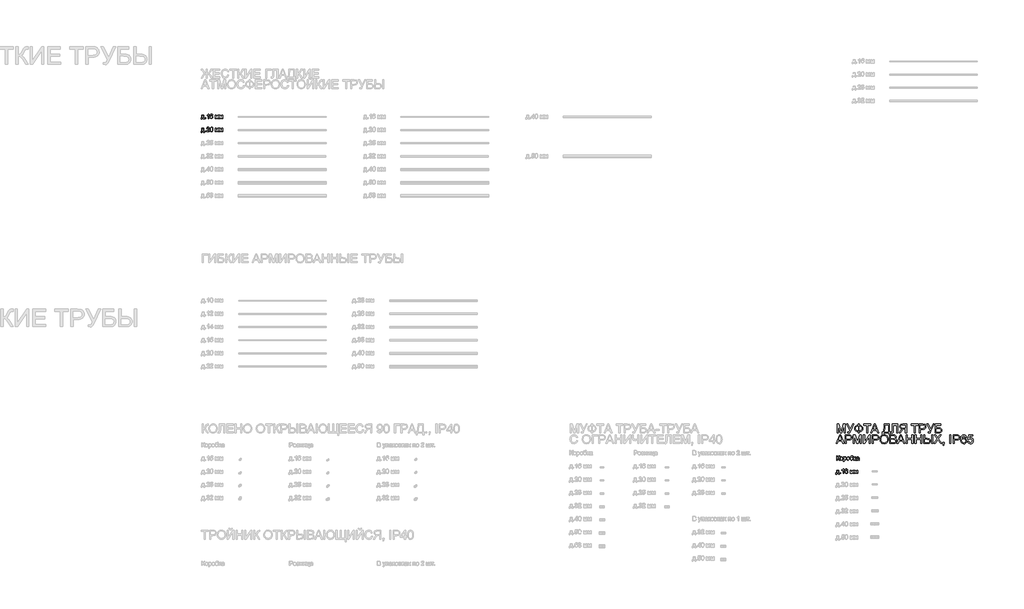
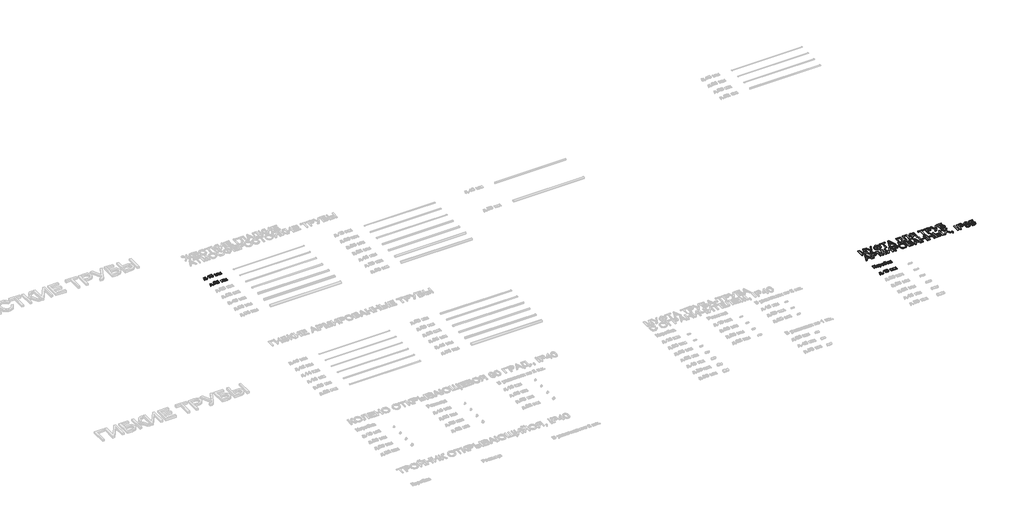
# One storey, part 87 of 98: 5 proxies.
"""IFC4 building model written with IfcOpenShell, lengths in millimetres."""

from ifc_helpers import new_model, si_unit, origin, origin_with_axes, place, context, project, spatial, polyline, outline, extrude, element, save

model = new_model("IFC4")

# Units and contexts
model_context = context("Model", 3, world=origin())
ifc_project = project(units=[si_unit("LENGTHUNIT", "METRE", prefix="MILLI")], contexts=[model_context])

# Site, building, storey
site = spatial("IfcSite", under=ifc_project)
building = spatial("IfcBuilding", under=site)
storey = spatial("IfcBuildingStorey", under=building, Name="Этаж 01", Elevation=0.0)

# Proxies
placement = place(None, origin())
element("IfcBuildingElementProxy", 1, Name="100", ObjectType="100", at=placement, inside=storey, context=model_context, shape_type="SweptSolid", body=[
    extrude(outline(polyline([(-29.8143916, -7596.7269726), (17.2745038, -7596.7269726), (17.2745038, -7657.9425366), (26.6922829, -7657.9425366), (26.6922829, -7690.9047634), (14.1352441, -7690.9047634), (14.1352441, -7670.4995754), (-37.6625408, -7670.4995754), (-37.6625408, -7690.9047634), (-50.2195796, -7690.9047634), (-50.2195796, -7657.9425366), (-42.3714303, -7657.9425366), (-32.6716084, -7633.9934187), (-29.8143916, -7596.7269726)]), holes=[polyline([(-18.8269827, -7609.2840114), (-21.7700386, -7637.8929679), (-28.2447617, -7657.9425366), (4.717465, -7657.9425366), (4.717465, -7609.2840114), (-18.8269827, -7609.2840114)])]), origin_with_axes(), (0.0, 0.0, 1.0), 10.0),
    extrude(outline(polyline([(43.9582112, -7670.4995754), (43.9582112, -7657.9425366), (56.51525, -7657.9425366), (56.51525, -7670.4995754), (43.9582112, -7670.4995754)])), origin_with_axes(), (0.0, 0.0, 1.0), 10.0),
    extrude(outline(polyline([(124.0093333, -7670.4995754), (111.4522946, -7670.4995754), (111.4522946, -7592.2142868), (99.5574434, -7600.6878354), (86.338217, -7607.0276685), (86.338217, -7595.1573428), (104.7445795, -7583.4096444), (115.9159294, -7570.0432652), (124.0093333, -7570.0432652), (124.0093333, -7670.4995754)])), origin_with_axes(), (0.0, 0.0, 1.0), 10.0),
    extrude(outline(polyline([(218.1871241, -7596.7269726), (205.6300853, -7598.2966025), (200.8721449, -7587.8242283), (188.2905806, -7582.600304), (176.9598152, -7585.6414618), (168.3881647, -7597.0580664), (164.8197093, -7619.4375545), (175.8929574, -7609.4189014), (189.6149558, -7606.1447517), (201.2155014, -7608.3827005), (210.9521115, -7615.0965469), (217.5555933, -7625.3543232), (219.7567539, -7638.2240617), (215.6119501, -7655.5513036), (204.2076083, -7667.8140368), (187.7510204, -7672.0692052), (173.5047901, -7669.2487766), (162.1586962, -7660.7874907), (154.736677, -7645.8514817), (152.2626706, -7623.6068837), (155.0095228, -7598.5970394), (163.2500795, -7581.496658), (174.5011372, -7572.9066134), (189.0753956, -7570.0432652), (200.0934613, -7571.8152302), (208.9164978, -7577.131125), (215.0969153, -7585.5740168), (218.1871241, -7596.7269726)]), holes=[polyline([(164.8197093, -7638.0278579), (167.7259771, -7648.9049023), (175.451499, -7656.8021024), (186.7700017, -7659.5121665), (195.0565437, -7658.1080835), (201.5711207, -7653.8958347), (205.7925665, -7647.2739588), (207.1997152, -7638.6409946), (205.8109606, -7630.3544527), (201.6446971, -7624.0360794), (195.0197555, -7620.0353627), (186.2549669, -7618.7017905), (171.0614405, -7624.0360794), (166.3801421, -7630.2011685), (164.8197093, -7638.0278579)])]), origin_with_axes(), (0.0, 0.0, 1.0), 10.0),
    extrude(outline(polyline([(273.1241687, -7596.7269726), (294.7311046, -7596.7269726), (311.3838962, -7655.7842956), (329.3365376, -7596.7269726), (350.0360312, -7596.7269726), (350.0360312, -7670.4995754), (337.4789924, -7670.4995754), (337.4789924, -7611.0988959), (319.4282492, -7670.4995754), (302.9471358, -7670.4995754), (285.6812075, -7608.2539418), (285.6812075, -7670.4995754), (273.1241687, -7670.4995754), (273.1241687, -7596.7269726)])), origin_with_axes(), (0.0, 0.0, 1.0), 10.0),
    extrude(outline(polyline([(368.8715893, -7596.7269726), (390.4785252, -7596.7269726), (407.1313168, -7655.7842956), (425.0839582, -7596.7269726), (445.7834518, -7596.7269726), (445.7834518, -7670.4995754), (433.226413, -7670.4995754), (433.226413, -7611.0988959), (415.1756698, -7670.4995754), (398.6945564, -7670.4995754), (381.4286281, -7608.2539418), (381.4286281, -7670.4995754), (368.8715893, -7670.4995754), (368.8715893, -7596.7269726)])), origin_with_axes(), (0.0, 0.0, 1.0), 10.0),
])
element("IfcBuildingElementProxy", 2, Name="100", ObjectType="100", at=placement, inside=storey, context=model_context, shape_type="SweptSolid", body=[
    extrude(outline(polyline([(-29.8143916, -7896.7269726), (17.2745038, -7896.7269726), (17.2745038, -7957.9425366), (26.6922829, -7957.9425366), (26.6922829, -7990.9047634), (14.1352441, -7990.9047634), (14.1352441, -7970.4995754), (-37.6625408, -7970.4995754), (-37.6625408, -7990.9047634), (-50.2195796, -7990.9047634), (-50.2195796, -7957.9425366), (-42.3714303, -7957.9425366), (-32.6716084, -7933.9934187), (-29.8143916, -7896.7269726)]), holes=[polyline([(-18.8269827, -7909.2840114), (-21.7700386, -7937.8929679), (-28.2447617, -7957.9425366), (4.717465, -7957.9425366), (4.717465, -7909.2840114), (-18.8269827, -7909.2840114)])]), origin_with_axes(), (0.0, 0.0, 1.0), 10.0),
    extrude(outline(polyline([(43.9582112, -7970.4995754), (43.9582112, -7957.9425366), (56.51525, -7957.9425366), (56.51525, -7970.4995754), (43.9582112, -7970.4995754)])), origin_with_axes(), (0.0, 0.0, 1.0), 10.0),
    extrude(outline(polyline([(141.2752616, -7957.9425366), (141.2752616, -7970.4995754), (75.3508081, -7970.4995754), (76.6997088, -7961.8420858), (84.3271288, -7948.5124948), (100.0479527, -7933.9566305), (121.728465, -7913.0364077), (127.148593, -7898.8116373), (122.0350333, -7887.2969308), (108.6809169, -7882.600304), (94.7627147, -7887.1865662), (89.4774767, -7899.8662323), (76.920438, -7898.2966025), (79.9646615, -7886.1503653), (86.5466835, -7877.2782778), (96.3231475, -7871.8520184), (108.950697, -7870.0432652), (121.670217, -7872.0543535), (131.4282869, -7878.0876182), (137.6362956, -7887.1007271), (139.7056318, -7898.0513478), (137.4738144, -7909.9584617), (130.0548608, -7922.2702458), (112.0654312, -7939.4748605), (97.6199315, -7951.5536526), (91.9545488, -7957.9425366), (141.2752616, -7957.9425366)])), origin_with_axes(), (0.0, 0.0, 1.0), 10.0),
    extrude(outline(polyline([(153.8323004, -7921.0807607), (157.5233831, -7892.1774986), (168.4862666, -7875.5124442), (186.7945272, -7870.0432652), (201.4607561, -7873.2806268), (211.5897737, -7882.6125667), (217.4758856, -7897.4749993), (219.7567539, -7921.0807607), (216.1024595, -7949.8613955), (205.1763642, -7966.563238), (196.9450046, -7970.6927134), (186.7945272, -7972.0692052), (173.7469791, -7969.6779723), (163.8386907, -7962.5042734), (156.333898, -7945.5142565), (153.8323004, -7921.0807607)]), holes=[polyline([(166.3893392, -7921.0562352), (167.8608672, -7940.8084327), (172.2754511, -7952.2403657), (178.8482761, -7957.6942163), (186.7945272, -7959.5121665), (194.7407783, -7957.6880849), (201.3136033, -7952.2158402), (205.7281872, -7940.7777759), (207.1997152, -7921.0562352), (205.7772381, -7901.7485618), (201.509807, -7890.227724), (194.9492447, -7884.507159), (186.6473744, -7882.600304), (178.7869624, -7884.2802984), (172.4716548, -7889.3202818), (167.9099181, -7901.5584895), (166.3893392, -7921.0562352)])]), origin_with_axes(), (0.0, 0.0, 1.0), 10.0),
    extrude(outline(polyline([(273.1241687, -7896.7269726), (294.7311046, -7896.7269726), (311.3838962, -7955.7842956), (329.3365376, -7896.7269726), (350.0360312, -7896.7269726), (350.0360312, -7970.4995754), (337.4789924, -7970.4995754), (337.4789924, -7911.0988959), (319.4282492, -7970.4995754), (302.9471358, -7970.4995754), (285.6812075, -7908.2539418), (285.6812075, -7970.4995754), (273.1241687, -7970.4995754), (273.1241687, -7896.7269726)])), origin_with_axes(), (0.0, 0.0, 1.0), 10.0),
    extrude(outline(polyline([(368.8715893, -7896.7269726), (390.4785252, -7896.7269726), (407.1313168, -7955.7842956), (425.0839582, -7896.7269726), (445.7834518, -7896.7269726), (445.7834518, -7970.4995754), (433.226413, -7970.4995754), (433.226413, -7911.0988959), (415.1756698, -7970.4995754), (398.6945564, -7970.4995754), (381.4286281, -7908.2539418), (381.4286281, -7970.4995754), (368.8715893, -7970.4995754), (368.8715893, -7896.7269726)])), origin_with_axes(), (0.0, 0.0, 1.0), 10.0),
])
element("IfcBuildingElementProxy", 3, Name="100", ObjectType="100", at=placement, inside=storey, context=model_context, shape_type="SweptSolid", body=[
    extrude(outline(polyline([(14428.905254, -15685.7395637), (14475.9941494, -15685.7395637), (14475.9941494, -15746.9551277), (14485.4119285, -15746.9551277), (14485.4119285, -15779.9173545), (14472.8548897, -15779.9173545), (14472.8548897, -15759.5121665), (14421.0571048, -15759.5121665), (14421.0571048, -15779.9173545), (14408.500066, -15779.9173545), (14408.500066, -15746.9551277), (14416.3482152, -15746.9551277), (14426.0480372, -15723.0060098), (14428.905254, -15685.7395637)]), holes=[polyline([(14439.8926629, -15698.2966025), (14436.949607, -15726.905559), (14430.4748839, -15746.9551277), (14463.4371106, -15746.9551277), (14463.4371106, -15698.2966025), (14439.8926629, -15698.2966025)])]), origin_with_axes(), (0.0, 0.0, 1.0), 10.0),
    extrude(outline(polyline([(14502.6778568, -15759.5121665), (14502.6778568, -15746.9551277), (14515.2348955, -15746.9551277), (14515.2348955, -15759.5121665), (14502.6778568, -15759.5121665)])), origin_with_axes(), (0.0, 0.0, 1.0), 10.0),
    extrude(outline(polyline([(14582.7289789, -15759.5121665), (14570.1719402, -15759.5121665), (14570.1719402, -15681.2268779), (14558.277089, -15689.7004265), (14545.0578626, -15696.0402596), (14545.0578626, -15684.1699338), (14563.4642251, -15672.4222355), (14574.635575, -15659.0558563), (14582.7289789, -15659.0558563), (14582.7289789, -15759.5121665)])), origin_with_axes(), (0.0, 0.0, 1.0), 10.0),
    extrude(outline(polyline([(14676.9067697, -15685.7395637), (14664.3497309, -15687.3091935), (14659.5917905, -15676.8368194), (14647.0102262, -15671.6128951), (14635.6794608, -15674.6540529), (14627.1078103, -15686.0706575), (14623.5393549, -15708.4501455), (14634.612603, -15698.4314925), (14648.3346014, -15695.1573428), (14659.935147, -15697.3952916), (14669.6717571, -15704.109138), (14676.2752389, -15714.3669143), (14678.4763995, -15727.2366527), (14674.3315957, -15744.5638947), (14662.9272539, -15756.8266279), (14646.470666, -15761.0817963), (14632.2244357, -15758.2613677), (14620.8783418, -15749.8000818), (14613.4563226, -15734.8640728), (14610.9823162, -15712.6194748), (14613.7291684, -15687.6096305), (14621.9697251, -15670.5092491), (14633.2207828, -15661.9192045), (14647.7950411, -15659.0558563), (14658.8131069, -15660.8278213), (14667.6361434, -15666.1437161), (14673.8165609, -15674.5866079), (14676.9067697, -15685.7395637)]), holes=[polyline([(14623.5393549, -15727.040449), (14626.4456227, -15737.9174933), (14634.1711446, -15745.8146935), (14645.4896473, -15748.5247575), (14653.7761892, -15747.1206746), (14660.2907662, -15742.9084257), (14664.5122121, -15736.2865498), (14665.9193608, -15727.6535857), (14664.5306062, -15719.3670437), (14660.3643426, -15713.0486705), (14653.739401, -15709.0479538), (14644.9746125, -15707.7143815), (14629.7810861, -15713.0486705), (14625.0997877, -15719.2137596), (14623.5393549, -15727.040449)])]), origin_with_axes(), (0.0, 0.0, 1.0), 10.0),
    extrude(outline(polyline([(14731.8438143, -15685.7395637), (14753.4507502, -15685.7395637), (14770.1035418, -15744.7968867), (14788.0561832, -15685.7395637), (14808.7556768, -15685.7395637), (14808.7556768, -15759.5121665), (14796.198638, -15759.5121665), (14796.198638, -15700.111487), (14778.1478948, -15759.5121665), (14761.6667814, -15759.5121665), (14744.4008531, -15697.2665329), (14744.4008531, -15759.5121665), (14731.8438143, -15759.5121665), (14731.8438143, -15685.7395637)])), origin_with_axes(), (0.0, 0.0, 1.0), 10.0),
    extrude(outline(polyline([(14827.5912349, -15685.7395637), (14849.1981708, -15685.7395637), (14865.8509624, -15744.7968867), (14883.8036038, -15685.7395637), (14904.5030974, -15685.7395637), (14904.5030974, -15759.5121665), (14891.9460586, -15759.5121665), (14891.9460586, -15700.111487), (14873.8953154, -15759.5121665), (14857.414202, -15759.5121665), (14840.1482737, -15697.2665329), (14840.1482737, -15759.5121665), (14827.5912349, -15759.5121665), (14827.5912349, -15685.7395637)])), origin_with_axes(), (0.0, 0.0, 1.0), 10.0),
])
element("IfcBuildingElementProxy", 4, Name="100", ObjectType="100", at=placement, inside=storey, context=model_context, shape_type="SweptSolid", body=[
    extrude(outline(polyline([(14422.316053, -15359.0558563), (14434.8730918, -15359.0558563), (14434.8730918, -15403.005492), (14448.9139213, -15399.6822913), (14458.7118451, -15382.8700841), (14465.6402893, -15368.8292546), (14473.4884386, -15361.8762849), (14484.7088394, -15359.0558563), (14492.9493961, -15359.2030091), (14492.9493961, -15371.7600479), (14490.1780184, -15371.6864715), (14487.4066407, -15371.6128951), (14477.5964542, -15374.6295274), (14470.1407124, -15387.5544482), (14461.2502309, -15403.2997976), (14452.5804785, -15408.4991965), (14462.2741691, -15414.1768419), (14471.8329696, -15426.0103794), (14492.9493961, -15459.5121665), (14478.3812691, -15459.5121665), (14460.5267296, -15431.2097783), (14447.9574281, -15416.4331848), (14434.8730918, -15412.4232711), (14434.8730918, -15459.5121665), (14422.316053, -15459.5121665), (14422.316053, -15359.0558563)])), origin_with_axes(), (0.0, 0.0, 1.0), 10.0),
    extrude(outline(polyline([(14499.2279155, -15422.6258651), (14501.9441109, -15404.8387706), (14510.0926971, -15392.3369141), (14520.160401, -15386.2116789), (14532.2146677, -15384.1699338), (14545.4063029, -15386.656203), (14555.9430564, -15394.1150104), (14562.8500409, -15405.957745), (14565.152369, -15421.5957955), (14561.0811416, -15443.9384953), (14549.2230786, -15456.5813732), (14532.2146677, -15461.0817963), (14518.863617, -15458.6047242), (14508.3391263, -15451.1735079), (14501.5057182, -15439.082453), (14499.2279155, -15422.6258651)]), holes=[polyline([(14511.7849543, -15422.6013396), (14513.2380882, -15433.9658276), (14517.5974898, -15442.0622972), (14524.158052, -15446.9091424), (14532.2146677, -15448.5247575), (14540.2344952, -15446.8999454), (14546.7827947, -15442.025509), (14551.1421964, -15433.8217405), (14552.5953303, -15422.2089321), (14551.1329993, -15411.175538), (14546.7460065, -15403.189433), (14540.18851, -15398.3425877), (14532.2146677, -15396.7269726), (14524.158052, -15398.3364563), (14517.5974898, -15403.1649075), (14513.2380882, -15411.242983), (14511.7849543, -15422.6013396)])]), origin_with_axes(), (0.0, 0.0, 1.0), 10.0),
    extrude(outline(polyline([(14579.2790377, -15487.7655037), (14579.2790377, -15385.7395637), (14591.8360764, -15385.7395637), (14591.8360764, -15398.0513478), (14600.5180915, -15387.6402873), (14612.2412644, -15384.1699338), (14628.1582921, -15389.0259762), (14638.5570898, -15402.7111864), (14642.0642315, -15422.0617793), (14638.1033687, -15442.4056537), (14626.600925, -15456.2625422), (14610.7206855, -15461.0817963), (14599.7945903, -15457.8566975), (14591.8360764, -15449.7019799), (14591.8360764, -15487.7655037), (14579.2790377, -15487.7655037)]), holes=[polyline([(14591.8360764, -15423.2144763), (14593.1941741, -15434.4716653), (14597.2684672, -15442.34434), (14603.2802722, -15446.9796532), (14610.4509054, -15448.5247575), (14617.7380346, -15446.9244709), (14623.9031237, -15442.1236108), (14628.1061755, -15433.9627619), (14629.5071927, -15422.2825085), (14628.139898, -15411.0866332), (14624.0380137, -15403.1035939), (14618.0354058, -15398.3211279), (14610.9659402, -15396.7269726), (14603.8688833, -15398.4222955), (14597.6363492, -15403.5082641), (14593.2861446, -15411.8254628), (14591.8360764, -15423.2144763)])]), origin_with_axes(), (0.0, 0.0, 1.0), 10.0),
    extrude(outline(polyline([(14653.0516404, -15422.6258651), (14655.7678358, -15404.8387706), (14663.916422, -15392.3369141), (14673.9841259, -15386.2116789), (14686.0383927, -15384.1699338), (14699.2300279, -15386.656203), (14709.7667813, -15394.1150104), (14716.6737658, -15405.957745), (14718.976094, -15421.5957955), (14714.9048665, -15443.9384953), (14703.0468036, -15456.5813732), (14686.0383927, -15461.0817963), (14672.6873419, -15458.6047242), (14662.1628512, -15451.1735079), (14655.3294431, -15439.082453), (14653.0516404, -15422.6258651)]), holes=[polyline([(14665.6086792, -15422.6013396), (14667.0618131, -15433.9658276), (14671.4212147, -15442.0622972), (14677.981777, -15446.9091424), (14686.0383927, -15448.5247575), (14694.0582202, -15446.8999454), (14700.6065197, -15442.025509), (14704.9659213, -15433.8217405), (14706.4190552, -15422.2089321), (14704.9567243, -15411.175538), (14700.5697315, -15403.189433), (14694.0122349, -15398.3425877), (14686.0383927, -15396.7269726), (14677.981777, -15398.3364563), (14671.4212147, -15403.1649075), (14667.0618131, -15411.242983), (14665.6086792, -15422.6013396)])]), origin_with_axes(), (0.0, 0.0, 1.0), 10.0),
    extrude(outline(polyline([(14784.9005475, -15357.4862265), (14795.8879564, -15357.4862265), (14792.6505949, -15367.2841503), (14786.2494481, -15370.8280802), (14770.8719807, -15371.6128951), (14750.1602244, -15374.5069001), (14742.2139733, -15383.7775264), (14739.5284348, -15400.1850634), (14750.4054791, -15388.1675849), (14764.4217831, -15384.1699338), (14777.4877253, -15386.7113853), (14788.0888581, -15394.3357396), (14795.1154042, -15406.2949702), (14797.4575863, -15421.8410502), (14792.8100104, -15443.447986), (14781.7858133, -15456.4832714), (14764.4217831, -15461.0817963), (14753.087952, -15459.6010713), (14744.5929436, -15455.1588962), (14733.7404247, -15440.002158), (14729.9635029, -15407.8370089), (14732.3455388, -15383.7438039), (14739.4916466, -15369.0499838), (14751.5796358, -15361.5543882), (14768.7873161, -15359.0558563), (14782.7668319, -15358.7738134), (14784.9005475, -15357.4862265)]), holes=[polyline([(14784.9005475, -15421.4486427), (14783.5393841, -15411.5679454), (14779.455894, -15403.6554169), (14772.8953317, -15398.4590837), (14764.102952, -15396.7269726), (14754.936559, -15398.5571855), (14748.1368734, -15404.0478243), (14743.9246246, -15412.598015), (14742.5205416, -15423.6068837), (14744.0717774, -15434.2785273), (14748.7254846, -15442.1113481), (14755.6539289, -15446.9214052), (14764.0293756, -15448.5247575), (14772.447742, -15446.6700191), (14779.1125374, -15441.105804), (14783.453545, -15432.4820369), (14784.9005475, -15421.4486427)])]), origin_with_axes(), (0.0, 0.0, 1.0), 10.0),
    extrude(outline(polyline([(14813.1538847, -15385.7395637), (14825.7109235, -15385.7395637), (14825.7109235, -15417.1321606), (14834.1231584, -15414.8758177), (14841.0148145, -15401.7301677), (14846.7415109, -15390.3871396), (14851.7937569, -15386.6960569), (14860.9785441, -15385.7395637), (14863.3820398, -15385.7395637), (14863.3820398, -15398.3701789), (14859.9975254, -15398.2966025), (14853.8661589, -15399.6209776), (14849.5496768, -15407.8860598), (14844.485168, -15416.8255923), (14837.3850455, -15421.203388), (14845.3067711, -15426.0900872), (14853.0813439, -15436.3846517), (14866.5212995, -15459.5121665), (14852.2474781, -15459.5121665), (14839.0773026, -15436.875161), (14832.4554267, -15427.2979664), (14825.7109235, -15424.9803098), (14825.7109235, -15459.5121665), (14813.1538847, -15459.5121665), (14813.1538847, -15385.7395637)])), origin_with_axes(), (0.0, 0.0, 1.0), 10.0),
    extrude(outline(polyline([(14921.4583441, -15450.0943874), (14909.2814501, -15458.6047242), (14895.8292318, -15461.0817963), (14885.3353979, -15459.5918742), (14877.5945475, -15455.122108), (14872.8212787, -15448.3346852), (14871.230189, -15439.8917934), (14873.6336847, -15429.9589795), (14879.9489923, -15422.7484924), (14888.741372, -15418.6282141), (14899.6061536, -15416.7397532), (14921.3847677, -15412.4232711), (14921.4583441, -15409.6273679), (14918.0002533, -15400.3567416), (14904.1188394, -15396.7269726), (14891.4146478, -15399.1427311), (14885.3568576, -15407.7143815), (14872.7998189, -15406.1447517), (14878.2322097, -15393.8820185), (14889.1705677, -15386.6960569), (14905.7375202, -15384.1699338), (14920.955572, -15386.4017513), (14929.551748, -15392.0058203), (14933.4022462, -15400.5284199), (14934.0153829, -15411.5158288), (14934.0153829, -15427.1385509), (14934.653045, -15448.9539532), (14937.1546426, -15459.5121665), (14924.5976038, -15459.5121665), (14921.4583441, -15450.0943874)]), holes=[polyline([(14921.4583441, -15424.9803098), (14901.2003089, -15428.8308081), (14890.396841, -15430.8664218), (14885.5040104, -15434.1773597), (14883.7872278, -15439.0088766), (14887.5273614, -15445.8024308), (14898.5025076, -15448.5247575), (14911.2066992, -15445.5203879), (14919.3982049, -15438.2485871), (14921.3847677, -15428.5365025), (14921.4583441, -15424.9803098)])]), origin_with_axes(), (0.0, 0.0, 1.0), 10.0),
])
element("IfcBuildingElementProxy", 5, Name="200", ObjectType="200", at=placement, inside=storey, context=model_context, shape_type="SweptSolid", body=[
    extrude(outline(polyline([(14433.303462, -14837.5373486), (14433.303462, -14636.6247283), (14476.5173337, -14636.6247283), (14517.6220153, -14778.234771), (14525.9116229, -14807.8124834), (14534.8879436, -14775.7822244), (14575.3059121, -14636.6247283), (14618.5197838, -14636.6247283), (14618.5197838, -14837.5373486), (14593.4057063, -14837.5373486), (14593.4057063, -14661.7388059), (14542.9322965, -14837.5373486), (14508.8909492, -14837.5373486), (14458.4175395, -14661.7388059), (14458.4175395, -14837.5373486), (14433.303462, -14837.5373486)])), origin_with_axes(), (0.0, 0.0, 1.0), 20.0),
    extrude(outline(polyline([(14648.3427509, -14636.6247283), (14676.1546297, -14636.6247283), (14736.2420223, -14755.622291), (14790.2961501, -14636.6247283), (14817.8627743, -14636.6247283), (14741.5885739, -14793.1462545), (14720.8400294, -14831.6021858), (14710.9930547, -14838.4080027), (14697.6389382, -14840.6766083), (14675.0264583, -14837.5373486), (14675.0264583, -14815.5625308), (14694.7939841, -14815.5625308), (14709.460213, -14809.9707244), (14723.0473214, -14784.5132904), (14648.3427509, -14636.6247283)])), origin_with_axes(), (0.0, 0.0, 1.0), 20.0),
    extrude(outline(polyline([(14913.6101949, -14661.7388059), (14913.6101949, -14636.6247283), (14938.7242724, -14636.6247283), (14938.7242724, -14661.7388059), (14972.5632846, -14668.53236), (14998.443783, -14684.7927442), (15014.869714, -14708.3494546), (15020.3450244, -14737.0319875), (15015.0413923, -14765.2485366), (14999.130496, -14788.8788234), (14987.3996589, -14798.3517848), (14973.4216759, -14805.4335132), (14938.7242724, -14812.4232711), (14938.7242724, -14837.5373486), (14913.6101949, -14837.5373486), (14913.6101949, -14812.4232711), (14881.5186222, -14806.3102986), (14855.2886359, -14790.7182334), (14845.095239, -14779.7384886), (14837.8142411, -14767.1308661), (14831.9894429, -14737.0319875), (14837.795847, -14706.8411385), (14845.0538522, -14694.2657056), (14855.2150595, -14683.3702672), (14881.4266517, -14667.9069606), (14913.6101949, -14661.7388059)]), holes=[polyline([(14913.6101949, -14686.8528834), (14890.7585916, -14690.8750599), (14872.7262425, -14700.8814501), (14861.0092009, -14716.4305958), (14857.1035204, -14737.0810385), (14860.96015, -14757.578197), (14872.5300387, -14773.1579995), (14890.5133369, -14783.2563602), (14913.6101949, -14787.3091935), (14913.6101949, -14686.8528834)]), polyline([(14938.7242724, -14686.8528834), (14938.7242724, -14787.3091935), (14962.2196692, -14783.1582584), (14980.1232596, -14773.0598976), (14991.4540251, -14757.529146), (14995.2309469, -14737.0810385), (14991.5214701, -14716.9088424), (14980.3930397, -14701.4210104), (14962.5568943, -14691.2061537), (14938.7242724, -14686.8528834)])]), origin_with_axes(), (0.0, 0.0, 1.0), 20.0),
    extrude(outline(polyline([(15105.1050361, -14837.5373486), (15105.1050361, -14661.7388059), (15039.1805826, -14661.7388059), (15039.1805826, -14636.6247283), (15196.1435672, -14636.6247283), (15196.1435672, -14661.7388059), (15130.2191136, -14661.7388059), (15130.2191136, -14837.5373486), (15105.1050361, -14837.5373486)])), origin_with_axes(), (0.0, 0.0, 1.0), 20.0),
    extrude(outline(polyline([(15200.9996095, -14837.5373486), (15281.1978845, -14636.6247283), (15302.5840911, -14636.6247283), (15382.7823661, -14837.5373486), (15356.2458115, -14837.5373486), (15333.240924, -14774.7521548), (15250.4920006, -14774.7521548), (15227.5361641, -14837.5373486), (15200.9996095, -14837.5373486)]), holes=[polyline([(15259.7135759, -14749.6380772), (15324.0683996, -14749.6380772), (15305.9686055, -14700.243788), (15291.8909878, -14661.7388059), (15279.3829999, -14695.9273059), (15259.7135759, -14749.6380772)])]), origin_with_axes(), (0.0, 0.0, 1.0), 20.0),
    extrude(outline(polyline([(15506.9302767, -14636.6247283), (15626.222145, -14636.6247283), (15626.222145, -14812.4232711), (15645.0577031, -14812.4232711), (15645.0577031, -14884.626244), (15619.9436256, -14884.626244), (15619.9436256, -14837.5373486), (15491.2339782, -14837.5373486), (15491.2339782, -14884.626244), (15466.1199007, -14884.626244), (15466.1199007, -14812.4232711), (15481.8161992, -14812.4232711), (15492.8036081, -14789.6421785), (15500.6517573, -14757.5965911), (15505.3606468, -14716.2865087), (15506.9302767, -14665.7119314), (15506.9302767, -14636.6247283)]), holes=[polyline([(15601.1080675, -14661.7388059), (15532.0443542, -14661.7388059), (15532.0443542, -14671.843298), (15526.9430572, -14740.6617566), (15519.3892136, -14780.4298002), (15506.9302767, -14812.4232711), (15601.1080675, -14812.4232711), (15601.1080675, -14661.7388059)])]), origin_with_axes(), (0.0, 0.0, 1.0), 20.0),
    extrude(outline(polyline([(15692.1465985, -14636.6247283), (15814.5777265, -14636.6247283), (15814.5777265, -14837.5373486), (15789.463649, -14837.5373486), (15789.463649, -14661.7388059), (15717.2606761, -14661.7388059), (15717.2606761, -14764.2552552), (15714.3421456, -14809.9952499), (15709.8233284, -14822.9201707), (15702.1039379, -14832.6077299), (15691.5334619, -14838.6593887), (15678.4613883, -14840.6766083), (15657.6147419, -14837.5373486), (15660.7540016, -14812.4232711), (15672.7714801, -14815.5625308), (15681.2634228, -14813.876405), (15687.3150817, -14808.8180275), (15690.9387193, -14797.5056562), (15692.1465985, -14777.0575486), (15692.1465985, -14636.6247283)])), origin_with_axes(), (0.0, 0.0, 1.0), 20.0),
    extrude(outline(polyline([(16015.4903468, -14837.5373486), (15990.3762693, -14837.5373486), (15990.3762693, -14749.6380772), (15960.0627929, -14749.6380772), (15945.4946659, -14750.520994), (15933.5507638, -14755.30346), (15920.2824865, -14768.3264826), (15901.3978774, -14795.8931068), (15875.2537303, -14837.5373486), (15846.0684253, -14837.5373486), (15879.5702123, -14783.0908133), (15899.9263494, -14757.2409718), (15914.2001708, -14746.4988175), (15889.4601066, -14739.8401534), (15872.138996, -14727.8104122), (15861.9302707, -14711.4028752), (15858.5273622, -14691.6108239), (15860.58137, -14675.6999276), (15866.7433934, -14661.2237711), (15876.3451135, -14649.5496491), (15888.7182113, -14642.0448564), (15905.6469144, -14637.9797603), (15928.9154506, -14636.6247283), (16015.4903468, -14636.6247283), (16015.4903468, -14837.5373486)]), holes=[polyline([(15990.3762693, -14724.5239997), (15990.3762693, -14661.7388059), (15927.8363301, -14661.7388059), (15907.964571, -14663.9093096), (15894.2609667, -14670.4208209), (15886.2963215, -14680.2923211), (15883.6414398, -14692.5427916), (15889.2087206, -14709.5879907), (15896.0635885, -14716.3447567), (15905.4936303, -14720.9678071), (15934.1639004, -14724.5239997), (15990.3762693, -14724.5239997)])]), origin_with_axes(), (0.0, 0.0, 1.0), 20.0),
    extrude(outline(polyline([(16188.1496299, -14837.5373486), (16188.1496299, -14661.7388059), (16122.2251764, -14661.7388059), (16122.2251764, -14636.6247283), (16279.188161, -14636.6247283), (16279.188161, -14661.7388059), (16213.2637074, -14661.7388059), (16213.2637074, -14837.5373486), (16188.1496299, -14837.5373486)])), origin_with_axes(), (0.0, 0.0, 1.0), 20.0),
    extrude(outline(polyline([(16307.4414982, -14837.5373486), (16307.4414982, -14636.6247283), (16381.900814, -14636.6247283), (16411.9199848, -14638.5377147), (16436.3228238, -14647.9309683), (16445.1949113, -14656.2573641), (16452.1417496, -14667.3551376), (16456.62991, -14680.4456053), (16458.1259634, -14694.7500836), (16454.0853928, -14718.4294213), (16441.9636811, -14738.160159), (16432.256195, -14745.9286004), (16419.2960188, -14751.4774872), (16383.6175967, -14755.9165966), (16332.5555757, -14755.9165966), (16332.5555757, -14837.5373486), (16307.4414982, -14837.5373486)]), holes=[polyline([(16332.5555757, -14730.8025191), (16385.0891246, -14730.8025191), (16407.3582481, -14728.4971252), (16422.0735279, -14721.5809437), (16430.2772964, -14710.4831702), (16433.0118859, -14695.6330003), (16431.3993365, -14684.3512858), (16426.5616882, -14674.8354049), (16419.0998151, -14667.6739687), (16409.614591, -14663.4555885), (16384.5005135, -14661.7388059), (16332.5555757, -14661.7388059), (16332.5555757, -14730.8025191)])]), origin_with_axes(), (0.0, 0.0, 1.0), 20.0),
    extrude(outline(polyline([(16478.5311514, -14636.6247283), (16506.3430303, -14636.6247283), (16566.4304228, -14755.622291), (16620.4845506, -14636.6247283), (16648.0511748, -14636.6247283), (16571.7769745, -14793.1462545), (16551.0284299, -14831.6021858), (16541.1814552, -14838.4080027), (16527.8273388, -14840.6766083), (16505.2148588, -14837.5373486), (16505.2148588, -14815.5625308), (16524.9823847, -14815.5625308), (16539.6486136, -14809.9707244), (16553.2357219, -14784.5132904), (16478.5311514, -14636.6247283)])), origin_with_axes(), (0.0, 0.0, 1.0), 20.0),
    extrude(outline(polyline([(16671.5956225, -14636.6247283), (16797.1660102, -14636.6247283), (16797.1660102, -14661.7388059), (16696.7097, -14661.7388059), (16696.7097, -14721.38474), (16743.7495445, -14721.38474), (16767.1345766, -14722.6600643), (16785.1975826, -14726.486037), (16799.0667338, -14733.8559396), (16809.8702017, -14745.7630535), (16816.8231715, -14761.09147), (16819.140828, -14778.7252803), (16817.4914904, -14793.5325306), (16812.5434776, -14807.3464995), (16804.321315, -14819.4436858), (16792.8495281, -14829.1005882), (16775.1544041, -14835.4281585), (16748.2622303, -14837.5373486), (16671.5956225, -14837.5373486), (16671.5956225, -14636.6247283)]), holes=[polyline([(16696.7097, -14812.4232711), (16750.5185732, -14812.4232711), (16769.5380723, -14810.3508692), (16783.1374434, -14804.1336635), (16791.3044237, -14793.7716539), (16794.0267505, -14779.2648406), (16792.4693834, -14768.4613727), (16787.797282, -14759.5954166), (16780.3476716, -14753.0225916), (16770.4577773, -14749.098517), (16732.6149828, -14746.4988175), (16696.7097, -14746.4988175), (16696.7097, -14812.4232711)])]), origin_with_axes(), (0.0, 0.0, 1.0), 20.0),
    extrude(outline(polyline([(14409.9061671, -15081.4869843), (14490.104442, -14880.574364), (14511.4906487, -14880.574364), (14591.6889236, -15081.4869843), (14565.152369, -15081.4869843), (14542.1474816, -15018.7017905), (14459.3985582, -15018.7017905), (14436.4427217, -15081.4869843), (14409.9061671, -15081.4869843)]), holes=[polyline([(14468.6201335, -14993.5877129), (14532.9749572, -14993.5877129), (14514.875163, -14944.1934237), (14500.7975454, -14905.6884415), (14488.2895575, -14939.8769416), (14468.6201335, -14993.5877129)])]), origin_with_axes(), (0.0, 0.0, 1.0), 20.0),
    extrude(outline(polyline([(14618.5197838, -15081.4869843), (14618.5197838, -14880.574364), (14692.9790996, -14880.574364), (14722.9982704, -14882.4873504), (14747.4011095, -14891.880604), (14756.2731969, -14900.2069998), (14763.2200352, -14911.3047733), (14767.7081956, -14924.395241), (14769.204249, -14938.6997192), (14765.1636785, -14962.379057), (14753.0419667, -14982.1097947), (14743.3344806, -14989.8782361), (14730.3743044, -14995.4271229), (14694.6958823, -14999.8662323), (14643.6338613, -14999.8662323), (14643.6338613, -15081.4869843), (14618.5197838, -15081.4869843)]), holes=[polyline([(14643.6338613, -14974.7521548), (14696.1674103, -14974.7521548), (14718.4365337, -14972.4467609), (14733.1518135, -14965.5305794), (14741.355582, -14954.4328059), (14744.0901715, -14939.582636), (14742.4776221, -14928.3009215), (14737.6399738, -14918.7850406), (14730.1781007, -14911.6236044), (14720.6928766, -14907.4052242), (14695.5787991, -14905.6884415), (14643.6338613, -14905.6884415), (14643.6338613, -14974.7521548)])]), origin_with_axes(), (0.0, 0.0, 1.0), 20.0),
    extrude(outline(polyline([(14803.7361056, -15081.4869843), (14803.7361056, -14880.574364), (14846.9499773, -14880.574364), (14888.0546589, -15022.1844067), (14896.3442666, -15051.7621191), (14905.3205872, -15019.73186), (14945.7385558, -14880.574364), (14988.9524275, -14880.574364), (14988.9524275, -15081.4869843), (14963.8383499, -15081.4869843), (14963.8383499, -14905.6884415), (14913.3649402, -15081.4869843), (14879.3235929, -15081.4869843), (14828.8501832, -14905.6884415), (14828.8501832, -15081.4869843), (14803.7361056, -15081.4869843)])), origin_with_axes(), (0.0, 0.0, 1.0), 20.0),
    extrude(outline(polyline([(15032.9020632, -14880.574364), (15058.0161407, -14880.574364), (15058.0161407, -15039.6955897), (15163.1813404, -14880.574364), (15189.8650478, -14880.574364), (15189.8650478, -15081.4869843), (15164.7509702, -15081.4869843), (15164.7509702, -14922.8072171), (15059.8310252, -15081.4869843), (15032.9020632, -15081.4869843), (15032.9020632, -14880.574364)])), origin_with_axes(), (0.0, 0.0, 1.0), 20.0),
    extrude(outline(polyline([(15233.8146835, -15081.4869843), (15233.8146835, -14880.574364), (15308.2739993, -14880.574364), (15338.2931701, -14882.4873504), (15362.6960091, -14891.880604), (15371.5680966, -14900.2069998), (15378.5149349, -14911.3047733), (15383.0030953, -14924.395241), (15384.4991487, -14938.6997192), (15380.4585781, -14962.379057), (15368.3368664, -14982.1097947), (15358.6293802, -14989.8782361), (15345.6692041, -14995.4271229), (15309.9907819, -14999.8662323), (15258.928761, -14999.8662323), (15258.928761, -15081.4869843), (15233.8146835, -15081.4869843)]), holes=[polyline([(15258.928761, -14974.7521548), (15311.4623099, -14974.7521548), (15333.7314334, -14972.4467609), (15348.4467132, -14965.5305794), (15356.6504817, -14954.4328059), (15359.3850712, -14939.582636), (15357.7725217, -14928.3009215), (15352.9348735, -14918.7850406), (15345.4730004, -14911.6236044), (15335.9877763, -14907.4052242), (15310.8736987, -14905.6884415), (15258.928761, -14905.6884415), (15258.928761, -14974.7521548)])]), origin_with_axes(), (0.0, 0.0, 1.0), 20.0),
    extrude(outline(polyline([(15409.6132262, -14983.6794245), (15411.2870893, -14960.113517), (15416.3086785, -14939.2515422), (15424.6779939, -14921.0935001), (15436.3950355, -14905.6393906), (15450.7577617, -14893.3000154), (15467.0641311, -14884.4861759), (15485.3141438, -14879.1978722), (15505.5077996, -14877.4351043), (15531.8604132, -14880.7460423), (15555.4907001, -14890.6788561), (15575.1110731, -14906.5345701), (15589.4339455, -14927.6142085), (15598.189537, -14952.8999643), (15601.1080675, -14981.3740307), (15598.0362528, -15010.2282418), (15588.8208088, -15035.8696169), (15573.9706389, -15056.9860434), (15553.9946466, -15072.265409), (15530.5666949, -15081.5360352), (15505.3606468, -15084.626244), (15478.6033631, -15081.2110728), (15454.8381862, -15070.9655592), (15435.266864, -15054.8155397), (15421.0911445, -15033.6868504), (15412.4827058, -15009.3759819), (15409.6132262, -14983.6794245)]), holes=[polyline([(15434.7273038, -14983.9246792), (15439.748893, -15015.3540643), (15454.8136607, -15039.3031822), (15477.4567975, -15054.4599204), (15505.213494, -15059.5121665), (15533.3748608, -15054.4108695), (15556.0547858, -15039.1069785), (15564.7781876, -15027.834461), (15571.0091889, -15014.4220966), (15575.9939899, -14981.177827), (15573.8602743, -14958.9454917), (15567.4591276, -14939.7297888), (15556.9560967, -14924.0150963), (15542.5167284, -14912.285792), (15525.0975159, -14904.9833344), (15505.6549524, -14902.5491818), (15478.6401513, -14907.2396773), (15455.672052, -14921.3111636), (15446.5087247, -14932.2602515), (15439.9634908, -14946.3455334), (15434.7273038, -14983.9246792)])]), origin_with_axes(), (0.0, 0.0, 1.0), 20.0),
    extrude(outline(polyline([(15635.6399241, -15081.4869843), (15635.6399241, -14880.574364), (15712.3065319, -14880.574364), (15733.3923016, -14882.0520234), (15749.8550208, -14886.4850014), (15762.4733733, -14893.9836627), (15772.0260424, -14904.658372), (15778.040913, -14917.2154107), (15780.0458699, -14930.3610607), (15778.3597441, -14942.458247), (15773.3013667, -14953.831932), (15764.8339494, -14963.7831399), (15752.9207041, -14971.6128951), (15767.151606, -14979.0441114), (15777.6668997, -14990.3503514), (15784.1600169, -15004.7835883), (15786.3243893, -15021.5957955), (15780.4137519, -15048.5983339), (15765.7720485, -15067.8262995), (15743.919858, -15078.0288935), (15711.7179207, -15081.4869843), (15635.6399241, -15081.4869843)]), holes=[polyline([(15660.7540016, -14962.195116), (15706.6166237, -14962.195116), (15733.3984329, -14960.036875), (15749.5116643, -14950.7417232), (15754.9317924, -14934.3832372), (15749.8795463, -14918.0002256), (15735.4095212, -14908.3126664), (15703.1340075, -14905.6884415), (15660.7540016, -14905.6884415), (15660.7540016, -14962.195116)]), polyline([(15660.7540016, -15056.3729068), (15712.2574809, -15056.3729068), (15730.8968354, -15055.3918881), (15746.6667102, -15049.9227091), (15757.1145589, -15038.7636219), (15761.2103118, -15021.8410502), (15756.4033204, -15002.3187789), (15750.1064069, -14995.261576), (15740.8296492, -14990.6691824), (15709.8049343, -14987.3091935), (15660.7540016, -14987.3091935), (15660.7540016, -15056.3729068)])]), origin_with_axes(), (0.0, 0.0, 1.0), 20.0),
    extrude(outline(polyline([(15797.458951, -15081.4869843), (15877.657226, -14880.574364), (15899.0434326, -14880.574364), (15979.2417076, -15081.4869843), (15952.705153, -15081.4869843), (15929.7002656, -15018.7017905), (15846.9513421, -15018.7017905), (15823.9955056, -15081.4869843), (15797.458951, -15081.4869843)]), holes=[polyline([(15856.1729174, -14993.5877129), (15920.5277411, -14993.5877129), (15902.427947, -14944.1934237), (15888.3503293, -14905.6884415), (15875.8423415, -14939.8769416), (15856.1729174, -14993.5877129)])]), origin_with_axes(), (0.0, 0.0, 1.0), 20.0),
    extrude(outline(polyline([(16006.0725677, -15081.4869843), (16006.0725677, -14880.574364), (16031.1866453, -14880.574364), (16031.1866453, -14962.195116), (16137.9214748, -14962.195116), (16137.9214748, -14880.574364), (16163.0355524, -14880.574364), (16163.0355524, -15081.4869843), (16137.9214748, -15081.4869843), (16137.9214748, -14987.3091935), (16031.1866453, -14987.3091935), (16031.1866453, -15081.4869843), (16006.0725677, -15081.4869843)])), origin_with_axes(), (0.0, 0.0, 1.0), 20.0),
    extrude(outline(polyline([(16206.985188, -15081.4869843), (16206.985188, -14880.574364), (16232.0992656, -14880.574364), (16232.0992656, -14962.195116), (16338.8340951, -14962.195116), (16338.8340951, -14880.574364), (16363.9481727, -14880.574364), (16363.9481727, -15081.4869843), (16338.8340951, -15081.4869843), (16338.8340951, -14987.3091935), (16232.0992656, -14987.3091935), (16232.0992656, -15081.4869843), (16206.985188, -15081.4869843)])), origin_with_axes(), (0.0, 0.0, 1.0), 20.0),
    extrude(outline(polyline([(16583.6963511, -14880.574364), (16608.8104286, -14880.574364), (16608.8104286, -15081.4869843), (16583.6963511, -15081.4869843), (16583.6963511, -14880.574364)])), origin_with_axes(), (0.0, 0.0, 1.0), 20.0),
    extrude(outline(polyline([(16407.8978083, -14880.574364), (16433.0118859, -14880.574364), (16433.0118859, -14965.3343757), (16481.2780037, -14965.3343757), (16520.555538, -14969.7244342), (16534.1150552, -14975.2120073), (16543.6217391, -14982.8946096), (16554.84214, -15001.6320659), (16558.5822736, -15022.7239669), (16554.6275421, -15044.7539671), (16542.7633478, -15063.853174), (16533.1570292, -15071.567966), (16520.1569992, -15077.0785317), (16483.9758049, -15081.4869843), (16407.8978083, -15081.4869843), (16407.8978083, -14880.574364)]), holes=[polyline([(16433.0118859, -15056.3729068), (16483.7305503, -15056.3729068), (16506.287848, -15054.3802126), (16521.6714467, -15048.4021302), (16530.5190087, -15038.0339893), (16533.468196, -15022.8711197), (16531.6839684, -15011.920499), (16526.3312853, -15002.9073901), (16518.1520423, -14996.3223024), (16507.8881346, -14992.6557452), (16470.1434419, -14990.4484532), (16433.0118859, -14990.4484532), (16433.0118859, -15056.3729068)])]), origin_with_axes(), (0.0, 0.0, 1.0), 20.0),
    extrude(outline(polyline([(16633.9245062, -15081.4869843), (16711.3759289, -14972.0053025), (16646.481545, -14880.574364), (16676.5988176, -14880.574364), (16713.1417625, -14932.0287924), (16725.4535466, -14952.0906239), (16739.8745208, -14931.6854359), (16776.0250582, -14880.574364), (16806.5837893, -14880.574364), (16741.6894053, -14972.2996081), (16819.140828, -15081.4869843), (16789.0235554, -15081.4869843), (16737.4219742, -15008.6954002), (16726.6798199, -14993.5877129), (16714.8585451, -15010.1669282), (16664.4832373, -15081.4869843), (16633.9245062, -15081.4869843)])), origin_with_axes(), (0.0, 0.0, 1.0), 20.0),
    extrude(outline(polyline([(16844.2549056, -15081.4869843), (16844.2549056, -15056.3729068), (16869.3689831, -15056.3729068), (16869.3689831, -15081.4869843), (16864.8562973, -15107.1651476), (16859.0192363, -15115.8410313), (16850.5334249, -15122.2973603), (16844.2549056, -15112.8795812), (16853.4764809, -15102.0393251), (16856.7628934, -15081.4869843), (16844.2549056, -15081.4869843)])), origin_with_axes(), (0.0, 0.0, 1.0), 20.0),
    extrude(outline(polyline([(17001.2178902, -15081.4869843), (17001.2178902, -14880.574364), (17026.3319677, -14880.574364), (17026.3319677, -15081.4869843), (17001.2178902, -15081.4869843)])), origin_with_axes(), (0.0, 0.0, 1.0), 20.0),
    extrude(outline(polyline([(17076.5601228, -15081.4869843), (17076.5601228, -14880.574364), (17151.0194386, -14880.574364), (17181.0386094, -14882.4873504), (17205.4414484, -14891.880604), (17214.3135359, -14900.2069998), (17221.2603742, -14911.3047733), (17225.7485346, -14924.395241), (17227.244588, -14938.6997192), (17223.2040174, -14962.379057), (17211.0823057, -14982.1097947), (17201.3748195, -14989.8782361), (17188.4146434, -14995.4271229), (17152.7362212, -14999.8662323), (17101.6742003, -14999.8662323), (17101.6742003, -15081.4869843), (17076.5601228, -15081.4869843)]), holes=[polyline([(17101.6742003, -14974.7521548), (17154.2077492, -14974.7521548), (17176.4768727, -14972.4467609), (17191.1921525, -14965.5305794), (17199.395921, -14954.4328059), (17202.1305105, -14939.582636), (17200.5179611, -14928.3009215), (17195.6803128, -14918.7850406), (17188.2184397, -14911.6236044), (17178.7332156, -14907.4052242), (17153.619138, -14905.6884415), (17101.6742003, -14905.6884415), (17101.6742003, -14974.7521548)])]), origin_with_axes(), (0.0, 0.0, 1.0), 20.0),
    extrude(outline(polyline([(17381.0683129, -14933.9417788), (17355.9542354, -14937.0810385), (17346.4383544, -14916.1362902), (17335.0462753, -14908.3004037), (17321.275226, -14905.6884415), (17298.6136951, -14911.7707572), (17289.1775219, -14921.3786086), (17281.4703941, -14934.6039664), (17276.2648639, -14953.3107658), (17274.3334834, -14979.3629424), (17284.4073187, -14967.6091127), (17296.4799795, -14959.3256364), (17309.8770155, -14954.4144118), (17323.9239763, -14952.7773369), (17347.1250675, -14957.2532345), (17366.5982878, -14970.6809274), (17379.8052514, -14991.19648), (17384.2075726, -15016.9359569), (17382.1351707, -15034.9192551), (17375.917965, -15051.5904408), (17366.0709903, -15065.7293722), (17353.1092813, -15076.1159072), (17337.6214493, -15082.4986598), (17320.1961055, -15084.626244), (17291.7036449, -15078.9853867), (17269.0114572, -15062.062815), (17260.3524347, -15048.9539532), (17254.1674187, -15032.190797), (17249.2194059, -14987.701601), (17254.7131103, -14937.6819124), (17261.5802409, -14918.6041653), (17271.1942237, -14903.4811496), (17281.6144812, -14893.4594309), (17293.6963391, -14886.3010604), (17322.8448558, -14880.574364), (17344.8809873, -14884.1182939), (17362.5270604, -14894.7500836), (17374.8878954, -14911.6358671), (17381.0683129, -14933.9417788)]), holes=[polyline([(17274.3334834, -15016.5435494), (17280.1460189, -15038.2976381), (17295.5970627, -15054.0920384), (17318.2340681, -15059.5121665), (17334.807152, -15056.7040006), (17347.836306, -15048.2795029), (17356.2791978, -15035.035751), (17359.0934951, -15017.7698227), (17356.315986, -15001.1967389), (17347.9834588, -14988.5599923), (17334.7335756, -14980.5585589), (17317.2039986, -14977.8914145), (17300.6554401, -14980.5585589), (17286.8169458, -14988.5599923), (17277.454349, -15000.8901705), (17274.3334834, -15016.5435494)])]), origin_with_axes(), (0.0, 0.0, 1.0), 20.0),
    extrude(outline(polyline([(17406.1823905, -15028.1195695), (17431.296468, -15024.9803098), (17435.9072557, -15040.0573403), (17443.9516086, -15050.8546768), (17455.3927387, -15057.3477941), (17470.1938576, -15059.5121665), (17488.1955499, -15056.5016655), (17501.6845564, -15047.4701625), (17510.1090541, -15033.4599898), (17512.91722, -15015.5134798), (17510.2868637, -14998.6154335), (17502.3957949, -14985.6905128), (17489.1826999, -14977.4867443), (17470.5862651, -14974.7521548), (17448.5378708, -14979.1176878), (17434.4357277, -14990.4484532), (17409.3216502, -14987.3091935), (17431.296468, -14883.7136237), (17528.6135185, -14883.7136237), (17528.6135185, -14908.8277012), (17451.6035541, -14908.8277012), (17440.8613999, -14964.1571533), (17458.8017785, -14953.2678463), (17477.6005485, -14949.6380772), (17501.0652884, -14954.1385003), (17520.54464, -14967.6397695), (17533.6596332, -14988.2166358), (17538.0312975, -15013.94385), (17534.0949602, -15039.0579275), (17522.2859481, -15060.542236), (17511.8503622, -15071.0789895), (17499.6734682, -15078.605242), (17485.755266, -15083.1209935), (17470.0957558, -15084.626244), (17445.429268, -15080.7573517), (17425.7782381, -15069.1506747), (17412.3076257, -15051.1551138), (17406.1823905, -15028.1195695)])), origin_with_axes(), (0.0, 0.0, 1.0), 20.0),
])

save(model, "model.ifc")
